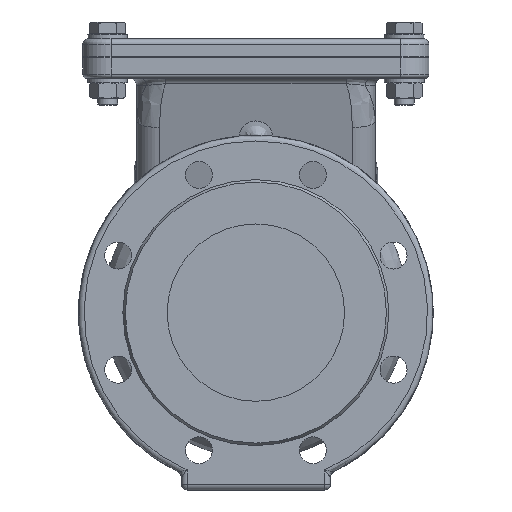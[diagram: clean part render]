
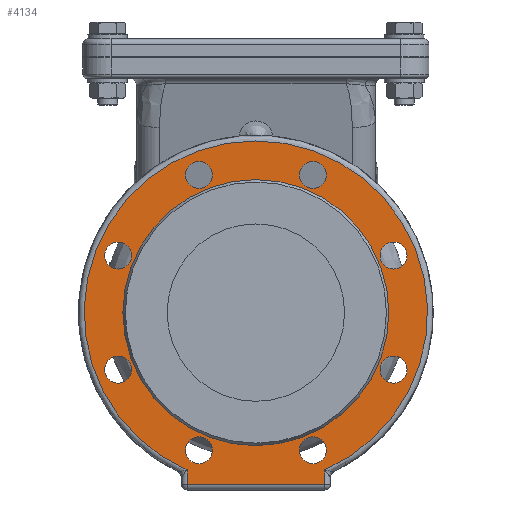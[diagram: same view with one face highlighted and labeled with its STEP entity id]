
A CAD part, left-side view. The second image highlights one B-rep face of the part: STEP entity #4134.
In plain terms, the highlighted planar face has unit normal (-1, 0, 0).
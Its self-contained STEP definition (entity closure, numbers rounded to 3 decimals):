
#4134=ADVANCED_FACE('',(#11721,#11723,#11725,#11727,#11729,#11731,#11733,#11735,
#11737,#11739),#11741,.T.);
#11721=FACE_BOUND('',#11722,.T.);
#11722=EDGE_LOOP('',(#15717,#15718,#15719,#15720));
#11723=FACE_BOUND('',#11724,.T.);
#11724=EDGE_LOOP('',(#15721));
#11725=FACE_BOUND('',#11726,.T.);
#11726=EDGE_LOOP('',(#15722));
#11727=FACE_BOUND('',#11728,.T.);
#11728=EDGE_LOOP('',(#15723));
#11729=FACE_BOUND('',#11730,.T.);
#11730=EDGE_LOOP('',(#15724));
#11731=FACE_BOUND('',#11732,.T.);
#11732=EDGE_LOOP('',(#15725));
#11733=FACE_BOUND('',#11734,.T.);
#11734=EDGE_LOOP('',(#15726));
#11735=FACE_BOUND('',#11736,.T.);
#11736=EDGE_LOOP('',(#15727));
#11737=FACE_BOUND('',#11738,.T.);
#11738=EDGE_LOOP('',(#15728));
#11739=FACE_BOUND('',#11740,.T.);
#11740=EDGE_LOOP('',(#15729));
#11741=PLANE('',#11742);
#11742=AXIS2_PLACEMENT_3D('',#11743,#11744,#11745);
#11743=CARTESIAN_POINT('',(3.,0.,0.));
#11744=DIRECTION('',(-1.,0.,0.));
#11745=DIRECTION('',(0.,0.,1.));
#15717=ORIENTED_EDGE('',*,*,#17987,.T.);
#15718=ORIENTED_EDGE('',*,*,#17977,.F.);
#15719=ORIENTED_EDGE('',*,*,#17988,.F.);
#15720=ORIENTED_EDGE('',*,*,#17989,.F.);
#15721=ORIENTED_EDGE('',*,*,#17990,.T.);
#15722=ORIENTED_EDGE('',*,*,#17906,.F.);
#15723=ORIENTED_EDGE('',*,*,#17907,.F.);
#15724=ORIENTED_EDGE('',*,*,#17908,.F.);
#15725=ORIENTED_EDGE('',*,*,#17909,.F.);
#15726=ORIENTED_EDGE('',*,*,#17910,.T.);
#15727=ORIENTED_EDGE('',*,*,#17911,.T.);
#15728=ORIENTED_EDGE('',*,*,#17912,.T.);
#15729=ORIENTED_EDGE('',*,*,#17913,.T.);
#17906=EDGE_CURVE('',#20227,#20227,#20228,.T.);
#17907=EDGE_CURVE('',#20229,#20229,#20230,.T.);
#17908=EDGE_CURVE('',#20231,#20231,#20232,.T.);
#17909=EDGE_CURVE('',#20233,#20233,#20234,.T.);
#17910=EDGE_CURVE('',#20235,#20235,#20236,.T.);
#17911=EDGE_CURVE('',#20237,#20237,#20238,.T.);
#17912=EDGE_CURVE('',#20239,#20239,#20240,.T.);
#17913=EDGE_CURVE('',#20241,#20241,#20242,.T.);
#17977=EDGE_CURVE('',#20332,#20330,#20334,.T.);
#17987=EDGE_CURVE('',#20348,#20330,#20349,.T.);
#17988=EDGE_CURVE('',#20350,#20332,#20351,.T.);
#17989=EDGE_CURVE('',#20348,#20350,#20352,.T.);
#17990=EDGE_CURVE('',#20353,#20353,#20354,.T.);
#20227=VERTEX_POINT('',#44835);
#20228=CIRCLE('',#44836,9.5);
#20229=VERTEX_POINT('',#44840);
#20230=CIRCLE('',#44841,9.5);
#20231=VERTEX_POINT('',#44845);
#20232=CIRCLE('',#44846,9.5);
#20233=VERTEX_POINT('',#44850);
#20234=CIRCLE('',#44851,9.5);
#20235=VERTEX_POINT('',#44855);
#20236=CIRCLE('',#44856,9.5);
#20237=VERTEX_POINT('',#44860);
#20238=CIRCLE('',#44861,9.5);
#20239=VERTEX_POINT('',#44865);
#20240=CIRCLE('',#44866,9.5);
#20241=VERTEX_POINT('',#44870);
#20242=CIRCLE('',#44871,9.5);
#20330=VERTEX_POINT('',#45943);
#20332=VERTEX_POINT('',#46022);
#20334=CIRCLE('',#46101,121.);
#20348=VERTEX_POINT('',#46138);
#20349=LINE('',#46139,#46140);
#20350=VERTEX_POINT('',#46142);
#20351=LINE('',#46143,#46144);
#20352=LINE('',#46146,#46147);
#20353=VERTEX_POINT('',#46149);
#20354=CIRCLE('',#46150,93.732);
#44835=CARTESIAN_POINT('',(3.,-30.682,97.007));
#44836=AXIS2_PLACEMENT_3D('',#44837,#44838,#44839);
#44837=CARTESIAN_POINT('',(3.,-40.182,97.007));
#44838=DIRECTION('',(-1.,0.,0.));
#44839=DIRECTION('',(0.,0.,1.));
#44840=CARTESIAN_POINT('',(3.,-87.507,40.182));
#44841=AXIS2_PLACEMENT_3D('',#44842,#44843,#44844);
#44842=CARTESIAN_POINT('',(3.,-97.007,40.182));
#44843=DIRECTION('',(-1.,0.,0.));
#44844=DIRECTION('',(0.,0.,1.));
#44845=CARTESIAN_POINT('',(3.,-87.507,-40.182));
#44846=AXIS2_PLACEMENT_3D('',#44847,#44848,#44849);
#44847=CARTESIAN_POINT('',(3.,-97.007,-40.182));
#44848=DIRECTION('',(-1.,0.,0.));
#44849=DIRECTION('',(0.,0.,1.));
#44850=CARTESIAN_POINT('',(3.,-30.682,-97.007));
#44851=AXIS2_PLACEMENT_3D('',#44852,#44853,#44854);
#44852=CARTESIAN_POINT('',(3.,-40.182,-97.007));
#44853=DIRECTION('',(-1.,0.,0.));
#44854=DIRECTION('',(0.,0.,1.));
#44855=CARTESIAN_POINT('',(3.,30.682,97.007));
#44856=AXIS2_PLACEMENT_3D('',#44857,#44858,#44859);
#44857=CARTESIAN_POINT('',(3.,40.182,97.007));
#44858=DIRECTION('',(1.,0.,0.));
#44859=DIRECTION('',(0.,0.,1.));
#44860=CARTESIAN_POINT('',(3.,87.507,40.182));
#44861=AXIS2_PLACEMENT_3D('',#44862,#44863,#44864);
#44862=CARTESIAN_POINT('',(3.,97.007,40.182));
#44863=DIRECTION('',(1.,0.,0.));
#44864=DIRECTION('',(0.,0.,1.));
#44865=CARTESIAN_POINT('',(3.,87.507,-40.182));
#44866=AXIS2_PLACEMENT_3D('',#44867,#44868,#44869);
#44867=CARTESIAN_POINT('',(3.,97.007,-40.182));
#44868=DIRECTION('',(1.,0.,0.));
#44869=DIRECTION('',(0.,0.,1.));
#44870=CARTESIAN_POINT('',(3.,30.682,-97.007));
#44871=AXIS2_PLACEMENT_3D('',#44872,#44873,#44874);
#44872=CARTESIAN_POINT('',(3.,40.182,-97.007));
#44873=DIRECTION('',(1.,0.,0.));
#44874=DIRECTION('',(0.,0.,1.));
#45943=CARTESIAN_POINT('',(3.,-48.5,-110.855));
#46022=CARTESIAN_POINT('',(3.,48.5,-110.855));
#46101=AXIS2_PLACEMENT_3D('',#46102,#46103,#46104);
#46102=CARTESIAN_POINT('',(3.,0.,0.));
#46103=DIRECTION('',(1.,0.,0.));
#46104=DIRECTION('',(0.,0.401,-0.916));
#46138=CARTESIAN_POINT('',(3.,-48.5,-121.));
#46139=CARTESIAN_POINT('',(3.,-48.5,-121.));
#46140=VECTOR('',#46141,1.);
#46141=DIRECTION('',(0.,0.,1.));
#46142=CARTESIAN_POINT('',(3.,48.5,-121.));
#46143=CARTESIAN_POINT('',(3.,48.5,-121.));
#46144=VECTOR('',#46145,1.);
#46145=DIRECTION('',(0.,0.,1.));
#46146=CARTESIAN_POINT('',(3.,-48.5,-121.));
#46147=VECTOR('',#46148,1.);
#46148=DIRECTION('',(0.,1.,0.));
#46149=CARTESIAN_POINT('',(3.,0.,-93.732));
#46150=AXIS2_PLACEMENT_3D('',#46151,#46152,#46153);
#46151=CARTESIAN_POINT('',(3.,0.,0.));
#46152=DIRECTION('',(1.,0.,0.));
#46153=DIRECTION('',(0.,0.,-1.));
